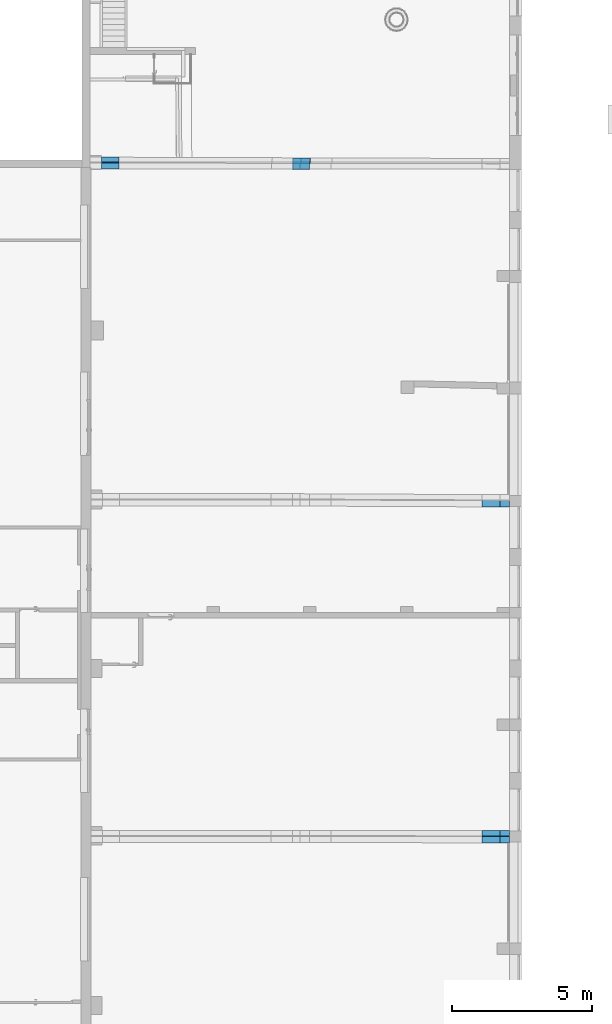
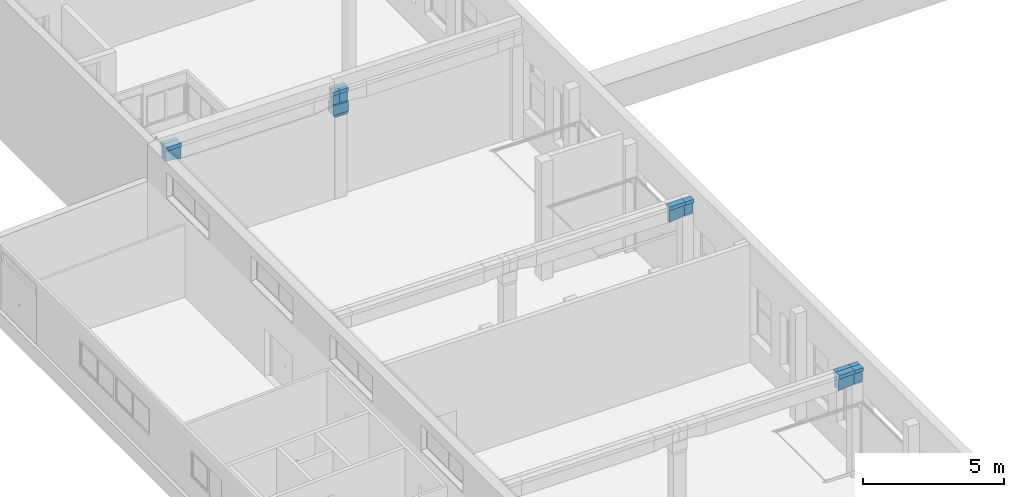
# One storey, part 225 of 301: 14 building element parts, 8 elements without a shape of their own.
"""IFC2X3 building model written with IfcOpenShell, lengths in millimetres."""

from ifc_helpers import new_model, entity, si_unit, converted_unit, derived_unit, money_unit, direction, frame, origin_with_axes, place, context, subcontext, project, spatial, faceted_brep, material, type_object, element, aggregate, save


model = new_model("IFC2X3")

# Units and contexts
model_context = context("Model", 3, precision=0.01, world=origin_with_axes(), true_north=direction((0.0, 1.0)))
body_context = subcontext(model_context, "Body", "Model", "MODEL_VIEW")
ifc_project = project(units=[si_unit("LENGTHUNIT", "METRE", prefix="MILLI"), si_unit("AREAUNIT", "SQUARE_METRE"), si_unit("VOLUMEUNIT", "CUBIC_METRE"), converted_unit("PLANEANGLEUNIT", "DEGREE", entity("IfcPlaneAngleMeasure", 0.0174532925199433), si_unit("PLANEANGLEUNIT", "RADIAN"), dimensions=[0, 0, 0, 0, 0, 0, 0]), money_unit("EUR"), converted_unit("TIMEUNIT", "Year", entity("IfcTimeMeasure", 31557600.0), si_unit("TIMEUNIT", "SECOND"), dimensions=[0, 0, 1, 0, 0, 0, 0]), si_unit("MASSUNIT", "GRAM", prefix="KILO"), si_unit("THERMODYNAMICTEMPERATUREUNIT", "DEGREE_CELSIUS"), si_unit("LUMINOUSINTENSITYUNIT", "LUMEN"), si_unit("ENERGYUNIT", "JOULE", prefix="MEGA"), derived_unit("THERMALCONDUCTANCEUNIT", [(si_unit("POWERUNIT", "WATT"), 1), (si_unit("LENGTHUNIT", "METRE"), -1), (si_unit("THERMODYNAMICTEMPERATUREUNIT", "KELVIN"), -1)]), derived_unit("SPECIFICHEATCAPACITYUNIT", [(si_unit("ENERGYUNIT", "JOULE"), 1), (si_unit("MASSUNIT", "GRAM", prefix="KILO"), -1), (si_unit("THERMODYNAMICTEMPERATUREUNIT", "KELVIN"), -1)]), derived_unit("MASSDENSITYUNIT", [(si_unit("MASSUNIT", "GRAM", prefix="KILO"), 1), (si_unit("VOLUMEUNIT", "CUBIC_METRE"), -1)])], contexts=[model_context])

# Site, building, storey
site_placement = place(None, frame((0.0, 0.0, 8650.0), z_axis=(0.0, 0.0, 1.0), x_axis=(1.0, 0.0, 0.0)))
site = spatial("IfcSite", under=ifc_project, at=site_placement, Name="43301:001:0844", CompositionType="ELEMENT")
building_placement = place(site_placement, origin_with_axes())
building = spatial("IfcBuilding", under=site, at=building_placement, Name="Kuressaare Ametikooli tuulikute mehaanikute õppekorpus", CompositionType="ELEMENT")
storey_placement = place(building_placement, origin_with_axes())
storey = spatial("IfcBuildingStorey", under=building, at=storey_placement, Name="1.korrus", CompositionType="ELEMENT", Elevation=0.0)

# Beam, building element parts
beam_type_1 = type_object("IfcBeamType", Name="Various Structures - 5 Segments - 250 x 700 x 7497 (338+766+5404+640+350)", PredefinedType="NOTDEFINED")
beam_1_placement = place(storey_placement, frame((95730.8310469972, 98334.3303694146, 4300.0), z_axis=(0.0, 0.0, 1.0), x_axis=(-0.004564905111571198, -0.999989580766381, 0.0)))
beam_1 = element("IfcBeam", 1, at=beam_1_placement, inside=storey, type_object=beam_type_1)
ifc_material_1 = material(Name="Raudbetoon")
building_element_part_1_placement = place(beam_1_placement, origin_with_axes())
building_element_part_1 = element("IfcBuildingElementPart", 2, at=building_element_part_1_placement, material=ifc_material_1, Name="Raudbetoon", context=body_context, shape_type="Brep", body=[
    faceted_brep([(64.99999999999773, 7147.120730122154, -164.4012678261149), (64.99999999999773, 7147.120730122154, -629.999999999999), (-64.99999999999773, 7147.12073012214, -629.999999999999), (-64.99999999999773, 7147.12073012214, -164.4012678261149), (-125.0052826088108, 7147.120730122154, -150.0000000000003), (-125.0054185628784, 7147.120730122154, -75.00000000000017), (-125.0055545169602, 7147.12073012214, 0.0), (125.0055545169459, 7147.12073012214, 0.0), (125.0054185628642, 7147.12073012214, -75.00000000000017), (125.0052826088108, 7147.12073012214, -150.0000000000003), (64.99999999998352, 7037.0511995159, -642.0460067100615), (64.99999999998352, 7037.0511995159, -629.999999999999), (64.99999999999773, 6507.500702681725, -164.4011476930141), (64.99999999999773, 6507.500702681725, -700.0000000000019), (-64.99999999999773, 7036.457755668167, -629.999999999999), (-64.99999999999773, 7036.457755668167, -642.1109531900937), (-64.99999999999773, 6507.500702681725, -700.0000000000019), (-64.99999999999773, 6507.500702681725, -164.4011476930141), (-125.0047820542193, 6507.500702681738, -150.0000000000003), (-125.0049071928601, 6667.405709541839, -150.0000000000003), (-125.00515747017, 6987.215723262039, -150.0000000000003), (-125.0054379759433, 6987.215723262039, 0.0), (-125.0052048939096, 6667.405709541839, 0.0), (-125.0050883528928, 6507.500702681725, 0.0), (125.0050883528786, 6507.500702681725, 0.0), (125.0052048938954, 6667.405709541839, 0.0), (125.0054379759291, 6987.215723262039, 0.0), (125.0051574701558, 6987.215723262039, -150.0000000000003), (125.0049071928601, 6667.405709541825, -150.0000000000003), (125.0047820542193, 6507.500702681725, -150.0000000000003), (125.0049352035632, 6507.500702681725, -75.00000000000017), (-125.0049352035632, 6507.500702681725, -75.00000000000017), (-125.0051768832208, 6827.310716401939, -75.00000000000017), (125.0051768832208, 6827.310716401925, -75.00000000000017)], [[[0, 1, 2, 3, 4, 5, 6, 7, 8, 9]], [[10, 11, 1, 0, 12, 13]], [[11, 14, 2, 1]], [[2, 14, 15, 16, 17, 3]], [[4, 3, 17, 18, 19, 20]], [[5, 4, 20]], [[6, 5, 21]], [[7, 6, 21, 22, 23, 24, 25, 26]], [[8, 7, 26]], [[9, 8, 27]], [[0, 9, 27, 28, 29, 12]], [[10, 15, 14, 11]], [[17, 16, 13, 12, 29, 30, 24, 23, 31, 18]], [[16, 15, 10, 13]], [[31, 19, 18]], [[32, 20, 19]], [[5, 20, 32, 21]], [[21, 32, 22]], [[22, 31, 23]], [[30, 25, 24]], [[33, 26, 25]], [[8, 26, 33, 27]], [[27, 33, 28]], [[28, 30, 29]], [[32, 19, 31, 22]], [[33, 25, 30, 28]]]),
])
building_element_part_2_placement = place(beam_1_placement, origin_with_axes())
building_element_part_2 = element("IfcBuildingElementPart", 3, at=building_element_part_2_placement, material=ifc_material_1, Name="Raudbetoon", context=body_context, shape_type="Brep", body=[
    faceted_brep([(125.0055545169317, 7147.120730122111, 0.0), (125.0055545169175, 7497.329914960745, 0.0), (-125.0055545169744, 7496.188626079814, 0.0), (-125.0055545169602, 7147.120730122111, 0.0), (125.0052826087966, 7147.120730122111, -150.0000000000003), (125.0052826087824, 7497.329913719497, -150.0000000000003), (-65.00000000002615, 7496.462548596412, -164.4012678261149), (-125.005282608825, 7496.188627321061, -150.0000000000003), (64.99999999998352, 7497.055992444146, -164.4012678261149), (64.99999999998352, 7497.055992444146, -629.999999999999), (-65.00000000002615, 7496.462548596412, -629.999999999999), (-125.005282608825, 7147.120730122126, -150.0000000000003), (-65.00000000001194, 7147.120730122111, -164.4012678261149), (-65.00000000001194, 7147.120730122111, -629.999999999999), (64.99999999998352, 7147.120730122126, -629.999999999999), (64.99999999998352, 7147.120730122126, -164.4012678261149)], [[[0, 1, 2, 3]], [[4, 5, 1, 0]], [[6, 7, 2, 1, 5, 8, 9, 10]], [[3, 2, 7, 11]], [[12, 13, 14, 15, 4, 0, 3, 11]], [[15, 8, 5, 4]], [[11, 7, 6, 12]], [[14, 9, 8, 15]], [[13, 10, 9, 14]], [[12, 6, 10, 13]]]),
])
aggregate(beam_1, [building_element_part_1, building_element_part_2])

# Column, building element parts
column_type = type_object("IfcColumnType", Name="Various Structures - 3 Segments - 600 x 400 x 4050 (3533+102+415)", PredefinedType="NOTDEFINED")
column_placement = place(storey_placement, frame((95767.69854968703, 110447.6710053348, -330.0), z_axis=(0.0, 0.0, 1.0), x_axis=(1.0, 0.0, 0.0)))
column = element("IfcColumn", 4, at=column_placement, inside=storey, type_object=column_type)
ifc_material_2 = material(Name="GENEERILINE - KONSTRUKTRIOON")
building_element_part_3_placement = place(column_placement, origin_with_axes())
building_element_part_3 = element("IfcBuildingElementPart", 5, at=building_element_part_3_placement, material=ifc_material_2, Name="GENEERILINE - KONSTRUKTRIOON", context=body_context, shape_type="Brep", body=[
    faceted_brep([(299.9999999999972, -200.0000000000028, 3635.0), (-299.9999999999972, -200.0000000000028, 3635.0), (-250.0, -200.0000000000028, 3532.979557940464), (250.0, -200.0000000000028, 3532.979557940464), (299.9999999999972, 200.0000000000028, 3635.0), (-299.9999999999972, 200.0000000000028, 3635.0), (-250.0, 200.0000000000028, 3532.979557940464), (250.0, 200.0000000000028, 3532.979557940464)], [[[0, 1, 2, 3]], [[4, 5, 1, 0]], [[1, 5, 6, 2]], [[7, 3, 2, 6]], [[4, 0, 3, 7]], [[5, 4, 7, 6]]]),
])
building_element_part_4_placement = place(column_placement, origin_with_axes())
building_element_part_4 = element("IfcBuildingElementPart", 6, at=building_element_part_4_placement, material=ifc_material_2, Name="GENEERILINE - KONSTRUKTRIOON", context=body_context, shape_type="Brep", body=[
    faceted_brep([(-299.9999999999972, -200.0000000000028, 4050.0), (-299.9999999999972, -200.0000000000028, 3635.0), (299.9999999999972, -200.0000000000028, 3635.0), (299.9999999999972, -200.0000000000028, 4050.0), (-299.9999999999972, 200.0000000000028, 4050.0), (-299.9999999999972, 200.0000000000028, 3635.0), (299.9999999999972, 200.0000000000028, 3635.0), (299.9999999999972, 200.0000000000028, 4050.0)], [[[0, 1, 2, 3]], [[4, 5, 1, 0]], [[2, 1, 5, 6]], [[3, 2, 6, 7]], [[4, 0, 3, 7]], [[7, 6, 5, 4]]]),
])
aggregate(column, [building_element_part_3, building_element_part_4])

# Beam, building element part
beam_type_2 = type_object("IfcBeamType", Name="Various Structures - 5 Segments - 250 x 700 x 7459 (337+766+5365+640+352)", PredefinedType="NOTDEFINED")
beam_2_placement = place(storey_placement, frame((95767.67580270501, 110534.9704800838, 4300.0), z_axis=(0.0, 0.0, 1.0), x_axis=(-0.003367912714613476, -0.9999943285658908, 0.0)))
beam_2 = element("IfcBeam", 7, at=beam_2_placement, inside=storey, type_object=beam_type_2)
building_element_part_5_placement = place(beam_2_placement, origin_with_axes())
building_element_part_5 = element("IfcBuildingElementPart", 8, at=building_element_part_5_placement, material=ifc_material_1, Name="Raudbetoon", context=body_context, shape_type="Brep", body=[
    faceted_brep([(-125.0055545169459, 337.7568168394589, 0.0), (-125.005282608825, 337.7568168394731, -150.0000000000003), (-125.0052826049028, 0.4617182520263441, -150.0000000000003), (-125.005554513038, 0.4617182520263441, 0.0), (21.75254840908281, 337.7568168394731, 0.0), (21.75267156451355, 337.7568168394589, -63.4067536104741), (21.7527181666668, 337.7568168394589, -86.59324633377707), (21.75284132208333, 337.7568168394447, -150.0000000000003), (73.37918230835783, 337.7568168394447, -162.3902640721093), (64.99999999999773, 337.7568168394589, -164.4012678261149), (64.99999999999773, 337.7568168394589, -579.8231697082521), (-65.00000000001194, 337.7568168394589, -579.8231697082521), (-65.00000000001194, 337.7568168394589, -164.4012678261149), (-64.99999999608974, 0.4617177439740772, -164.4012678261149), (73.89411917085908, 0.4617165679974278, -162.2666792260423), (22.78271733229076, 0.4617170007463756, -150.0000000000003), (22.78244542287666, 0.4617170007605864, 0.0), (-64.99999999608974, 0.4617177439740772, -579.8231697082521), (65.00000000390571, 0.4617166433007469, -579.8231697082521), (65.0000000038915, 0.4617166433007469, -164.4012678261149), (21.8429310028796, 308.1582167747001, 0.0), (21.84307667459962, 308.1582172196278, -75.00000000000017), (21.84322234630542, 308.1582176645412, -150.0000000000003)], [[[0, 1, 2, 3]], [[4, 5, 6, 7, 8, 9, 10, 11, 12, 1, 0]], [[1, 12, 13, 2]], [[14, 15, 16, 3, 2, 13, 17, 18, 19]], [[4, 0, 3, 16, 20]], [[4, 20, 21, 5]], [[6, 5, 21]], [[6, 21, 22, 7]], [[7, 22, 15, 14, 8]], [[9, 8, 14, 19]], [[10, 9, 19, 18]], [[11, 10, 18, 17]], [[12, 11, 17, 13]], [[21, 20, 16, 15, 22]]]),
])
aggregate(beam_2, [building_element_part_5])

# Beam, building element parts
beam_type_3 = type_object("IfcBeamType", Name="Various Structures - 5 Segments - 250 x 700 x 7549 (262+767+5479+621+420)", PredefinedType="NOTDEFINED")
beam_3_placement = place(storey_placement, frame((95768.13751728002, 110534.9689250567, 4300.0), z_axis=(0.0, 0.0, 1.0), x_axis=(0.003367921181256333, 0.9999943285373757, 0.0)))
beam_3 = element("IfcBeam", 9, at=beam_3_placement, inside=storey, type_object=beam_type_3)
building_element_part_6_placement = place(beam_3_placement, origin_with_axes())
building_element_part_6 = element("IfcBuildingElementPart", 10, at=building_element_part_6_placement, material=ifc_material_1, Name="Raudbetoon", context=body_context, shape_type="Brep", body=[
    faceted_brep([(125.0055545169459, 261.7777961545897, 0.0), (-23.65466279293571, 261.7777961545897, 0.0), (-22.87437891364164, 30.09795213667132, 0.0), (-125.0055326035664, 29.74680576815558, 0.0), (-22.87425300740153, 30.05874251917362, 0.0), (-22.78244541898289, 0.0, 0.0), (125.0055545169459, 0.0, 0.0), (64.99999999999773, 261.7777961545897, -579.8231697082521), (-65.00000000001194, 261.7777961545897, -579.8231697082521), (-65.00000000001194, 261.7777961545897, -164.4012678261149), (-74.33025235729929, 261.7777961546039, -162.1620072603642), (-23.6549347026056, 261.7777961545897, -150.0000000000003), (125.0052826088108, 261.7777961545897, -150.0000000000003), (64.99999999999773, 261.7777961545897, -164.4012678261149), (-22.87465082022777, 30.09795122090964, -150.0000000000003), (-73.93982190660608, 29.92596677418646, -162.2557105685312), (-125.0052606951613, 29.74680659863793, -150.0000000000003), (-73.93978467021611, 29.90277447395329, -162.2557195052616), (-22.87452491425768, 30.05874168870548, -150.0000000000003), (-22.78271732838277, 0.0, -150.0000000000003), (125.0052826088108, 0.0, -150.0000000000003), (-73.8941191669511, 0.0, -162.2666792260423), (-64.99999999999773, 0.0, -164.4012678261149), (-65.00000000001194, 0.0, -579.8231697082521), (64.99999999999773, 0.0, -579.8231697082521), (64.99999999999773, 0.0, -164.4012678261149)], [[[0, 1, 2, 3, 4, 5, 6]], [[7, 8, 9, 10, 11, 1, 0, 12, 13]], [[2, 1, 11, 14]], [[2, 14, 15, 16, 3]], [[16, 17, 18, 4, 3]], [[5, 4, 18, 19]], [[20, 6, 5, 19, 21, 22, 23, 24, 25]], [[20, 12, 0, 6]], [[23, 8, 7, 24]], [[22, 9, 8, 23]], [[9, 22, 21, 17, 16, 15, 10]], [[10, 15, 14, 11]], [[25, 13, 12, 20]], [[24, 7, 13, 25]], [[19, 18, 17, 21]]]),
])
building_element_part_7_placement = place(beam_3_placement, origin_with_axes())
building_element_part_7 = element("IfcBuildingElementPart", 11, at=building_element_part_7_placement, material=ifc_material_1, Name="Raudbetoon", context=body_context, shape_type="Brep", body=[
    faceted_brep([(64.99999999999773, 7129.433449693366, -630.0252041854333), (0.4397983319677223, 7129.43344969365, -630.0252041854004), (65.00002122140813, 7129.650884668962, -629.999999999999), (-65.00000000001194, 7128.634480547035, -630.0252520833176), (-64.99999999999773, 7129.213052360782, -630.025217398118), (64.99999999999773, 7128.634481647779, -630.0252520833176), (-64.99999999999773, 7129.213052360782, -629.999999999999), (64.99999999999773, 6508.271561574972, -164.4011476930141), (64.99999999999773, 6508.271561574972, -699.959733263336), (65.00000000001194, 7129.657185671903, -164.4012678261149), (-64.99999999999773, 7129.657185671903, -629.999999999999), (-65.00000000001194, 6508.271561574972, -699.9597331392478), (-64.99999999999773, 6508.271561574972, -164.4011476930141), (-64.99999999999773, 7129.657185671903, -164.4012678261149), (-84.84913139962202, 6508.271561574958, -159.6373561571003), (125.0047820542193, 6508.271561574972, -150.0000000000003), (125.0049352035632, 6508.271561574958, -75.00000000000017), (125.0050883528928, 6508.271561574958, 0.0), (-44.69294681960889, 6508.271561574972, 0.0), (-44.69309981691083, 6508.271561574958, -74.92511811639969), (-44.69310011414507, 6508.271561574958, -75.07488188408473), (-44.69325311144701, 6508.271561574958, -150.0000000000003), (-85.89552338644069, 7129.657185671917, -159.386342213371), (-46.78554235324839, 7129.657185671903, -150.0000000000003), (-46.7852704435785, 7129.657185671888, 0.0), (125.0055545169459, 7129.657185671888, 0.0), (125.0054185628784, 7129.657185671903, -75.00000000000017), (125.005282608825, 7129.657185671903, -150.0000000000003), (125.0049071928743, 6663.617967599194, -150.0000000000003), (125.0051574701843, 6974.310779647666, -150.0000000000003), (125.0052048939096, 6663.617967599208, 0.0), (125.0054379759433, 6974.310779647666, 0.0), (-46.78473621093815, 7129.498562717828, 0.0), (-46.26165830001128, 6974.153037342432, 0.0), (-45.21550247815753, 6663.461986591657, 0.0), (-45.73872493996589, 6818.807511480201, -75.00000000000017), (-45.21580017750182, 6663.461985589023, -150.0000000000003), (-46.26193880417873, 6974.153036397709, -150.0000000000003), (-46.78500811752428, 7129.498561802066, -150.0000000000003), (-46.78487216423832, 7129.498562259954, -75.00000000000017), (125.0051768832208, 6818.964373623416, -75.00000000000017)], [[[0, 1, 2]], [[3, 4, 1, 0, 5]], [[6, 2, 1, 4]], [[7, 8, 5, 0, 2, 9]], [[10, 6, 4, 3, 11, 12, 13]], [[11, 3, 5, 8]], [[6, 10, 2]], [[14, 12, 11, 8, 7, 15, 16, 17, 18, 19, 20, 21]], [[9, 2, 10, 13, 22, 23, 24, 25, 26, 27]], [[28, 15, 7, 9, 27, 29]], [[13, 12, 14, 22]], [[28, 16, 15]], [[16, 30, 17]], [[30, 31, 25, 24, 32, 33, 34, 18, 17]], [[34, 19, 18]], [[19, 34, 35, 36, 20]], [[36, 21, 20]], [[21, 36, 37, 38, 23, 22, 14]], [[24, 23, 38, 39, 32]], [[26, 25, 31]], [[27, 26, 29]], [[29, 40, 28]], [[30, 16, 28, 40]], [[40, 31, 30]], [[32, 39, 33]], [[35, 34, 33]], [[37, 36, 35]], [[39, 38, 37]], [[31, 40, 29, 26]], [[35, 33, 39, 37]]]),
])
aggregate(beam_3, [building_element_part_6, building_element_part_7])

# Beam, building element part
beam_type_4 = type_object("IfcBeamType", Name="Various Structures - 5 Segments - 250 x 700 x 7489 (338+766+5394+640+352)", PredefinedType="NOTDEFINED")
beam_4_placement = place(storey_placement, frame((95737.96269673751, 110387.1904888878, 4300.0), z_axis=(0.0, 0.0, 1.0), x_axis=(-0.0003136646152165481, -0.9999999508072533, 0.0)))
beam_4 = element("IfcBeam", 12, at=beam_4_placement, inside=storey, type_object=beam_type_4)
building_element_part_8_placement = place(beam_4_placement, origin_with_axes())
building_element_part_8 = element("IfcBuildingElementPart", 13, at=building_element_part_8_placement, material=ifc_material_1, Name="Raudbetoon", context=body_context, shape_type="Brep", body=[
    faceted_brep([(64.99999999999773, 0.0, -164.4012678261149), (64.99999999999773, 0.0, -579.8231697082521), (65.00000000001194, 337.7568168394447, -579.8231697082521), (65.00000000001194, 337.7568168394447, -164.4012678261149), (-64.99999999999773, 0.0, -164.4012678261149), (-64.99999999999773, 0.0, -579.8231697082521), (125.0052826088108, 0.0, -150.0000000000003), (125.0055545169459, 0.0, 0.0), (-125.0055545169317, 0.0, 0.0), (-125.0052826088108, 0.0, -150.0000000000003), (-64.99999999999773, 337.7568168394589, -579.8231697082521), (125.0052826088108, 337.7568168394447, -150.0000000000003), (-64.99999999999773, 337.7568168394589, -164.4012678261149), (-125.0052826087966, 337.7568168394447, -150.0000000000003), (-125.0055545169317, 337.7568168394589, 0.0), (125.0055545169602, 337.7568168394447, 0.0)], [[[0, 1, 2, 3]], [[4, 5, 1, 0, 6, 7, 8, 9]], [[1, 5, 10, 2]], [[11, 3, 2, 10, 12, 13, 14, 15]], [[6, 0, 3, 11]], [[5, 4, 12, 10]], [[7, 6, 11, 15]], [[8, 7, 15, 14]], [[9, 8, 14, 13]], [[4, 9, 13, 12]]]),
])
aggregate(beam_4, [building_element_part_8])

# Beam, building element parts
beam_type_5 = type_object("IfcBeamType", Name="Various Structures - 5 Segments - 250 x 700 x 7519 (262+767+5449+621+420)", PredefinedType="NOTDEFINED")
beam_5_placement = place(storey_placement, frame((95737.96269673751, 110387.1904888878, 4300.0), z_axis=(0.0, 0.0, 1.0), x_axis=(0.0, 1.0, 0.0)))
beam_5 = element("IfcBeam", 14, at=beam_5_placement, inside=storey, type_object=beam_type_5)
building_element_part_9_placement = place(beam_5_placement, origin_with_axes())
building_element_part_9 = element("IfcBuildingElementPart", 15, at=building_element_part_9_placement, material=ifc_material_1, Name="Raudbetoon", context=body_context, shape_type="Brep", body=[
    faceted_brep([(64.99999999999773, 0.0, -164.4012678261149), (64.99999999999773, 0.0, -579.8231697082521), (64.99999999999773, 261.7777961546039, -579.8231697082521), (64.99999999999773, 261.7777961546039, -164.4012678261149), (-64.99999999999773, 0.0, -164.4012678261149), (-64.99999999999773, 0.0, -579.8231697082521), (125.0052826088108, 0.0, -150.0000000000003), (125.0055545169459, 0.0, 0.0), (-125.0055545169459, 0.0, 0.0), (-125.0052826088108, 0.0, -150.0000000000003), (-64.99999999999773, 261.7777961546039, -579.8231697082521), (125.0052826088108, 261.7777961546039, -150.0000000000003), (-64.99999999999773, 261.7777961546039, -164.4012678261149), (-125.0052826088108, 261.7777961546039, -150.0000000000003), (-125.0055545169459, 261.7777961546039, 0.0), (125.0055545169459, 261.7777961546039, 0.0)], [[[0, 1, 2, 3]], [[4, 5, 1, 0, 6, 7, 8, 9]], [[1, 5, 10, 2]], [[11, 3, 2, 10, 12, 13, 14, 15]], [[6, 0, 3, 11]], [[5, 4, 12, 10]], [[7, 6, 11, 15]], [[8, 7, 15, 14]], [[9, 8, 14, 13]], [[4, 9, 13, 12]]]),
])
building_element_part_10_placement = place(beam_5_placement, origin_with_axes())
building_element_part_10 = element("IfcBuildingElementPart", 16, at=building_element_part_10_placement, material=ifc_material_1, Name="Raudbetoon", context=body_context, shape_type="Brep", body=[
    faceted_brep([(64.99999999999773, 7099.216713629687, -630.025225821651), (64.99999999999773, 7099.216713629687, -629.999999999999), (64.99999999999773, 7099.440874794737, -629.999999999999), (64.99999999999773, 7099.440874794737, -164.4012678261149), (64.99999999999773, 6478.055250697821, -164.4011476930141), (64.99999999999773, 6478.055250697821, -700.000000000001), (64.99999999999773, 7098.778882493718, -630.0252520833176), (-64.99999999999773, 7099.216713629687, -629.999999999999), (-64.99999999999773, 7099.216713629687, -630.0252520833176), (-64.99999999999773, 7099.440874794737, -629.999999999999), (-64.99999999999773, 7099.440874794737, -164.4012678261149), (-125.0052826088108, 7099.440874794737, -150.0000000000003), (-125.0054185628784, 7099.440874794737, -75.00000000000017), (-125.0055545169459, 7099.440874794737, 0.0), (125.0055545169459, 7099.440874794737, 0.0), (125.0054185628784, 7099.440874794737, -75.00000000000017), (125.0052826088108, 7099.440874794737, -150.0000000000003), (125.0047820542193, 6478.055250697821, -150.0000000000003), (125.00515747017, 6944.094468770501, -150.0000000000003), (125.0049071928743, 6633.401656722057, -150.0000000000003), (125.0049352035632, 6478.055250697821, -75.00000000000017), (125.0050883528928, 6478.055250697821, 0.0), (-125.0050883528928, 6478.055250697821, 0.0), (-125.0049352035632, 6478.055250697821, -75.00000000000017), (-125.0047820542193, 6478.055250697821, -150.0000000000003), (-64.99999999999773, 6478.055250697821, -164.4011476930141), (-64.99999999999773, 6478.055250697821, -700.000000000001), (-125.0049071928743, 6633.401656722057, -150.0000000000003), (-125.00515747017, 6944.094468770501, -150.0000000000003), (-125.0054379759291, 6944.094468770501, 0.0), (125.0052048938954, 6633.401656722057, 0.0), (125.0054379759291, 6944.094468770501, 0.0), (-125.0052048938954, 6633.401656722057, 0.0), (125.0051768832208, 6788.748062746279, -75.00000000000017), (-125.0051768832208, 6788.748062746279, -75.00000000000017)], [[[0, 1, 2, 3, 4, 5, 6]], [[7, 1, 0, 8]], [[9, 2, 1, 7]], [[3, 2, 9, 10, 11, 12, 13, 14, 15, 16]], [[17, 4, 3, 16, 18, 19]], [[20, 21, 22, 23, 24, 25, 26, 5, 4, 17]], [[8, 6, 5]], [[6, 8, 0]], [[9, 7, 8, 26, 25, 10]], [[27, 28, 11, 10, 25, 24]], [[11, 28, 12]], [[12, 29, 13]], [[30, 31, 14, 13, 29, 32, 22, 21]], [[14, 31, 15]], [[15, 18, 16]], [[18, 33, 19]], [[17, 19, 20]], [[20, 30, 21]], [[22, 32, 23]], [[23, 27, 24]], [[5, 26, 8]], [[28, 27, 34]], [[34, 29, 12, 28]], [[30, 33, 31]], [[29, 34, 32]], [[31, 33, 18, 15]], [[30, 20, 19, 33]], [[27, 23, 32, 34]]]),
])
aggregate(beam_5, [building_element_part_9, building_element_part_10])

beam_type_6 = type_object("IfcBeamType", Name="Various Structures - 5 Segments - 250 x 700 x 7496 (338+766+5404+640+349)", PredefinedType="NOTDEFINED")
beam_6_placement = place(storey_placement, frame((95731.40168846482, 86476.84788949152, 4300.0), z_axis=(0.0, 0.0, 1.0), x_axis=(0.001815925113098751, -0.9999983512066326, 0.0)))
beam_6 = element("IfcBeam", 17, at=beam_6_placement, inside=storey, type_object=beam_type_6)
building_element_part_11_placement = place(beam_6_placement, origin_with_axes())
building_element_part_11 = element("IfcBuildingElementPart", 18, at=building_element_part_11_placement, material=ifc_material_1, Name="Raudbetoon", context=body_context, shape_type="Brep", body=[
    faceted_brep([(64.99999999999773, 6507.591200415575, -700.0000000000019), (64.99999999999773, 7036.00408432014, -642.1705070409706), (64.99999999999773, 7036.00408432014, -629.999999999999), (65.00000000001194, 7147.211227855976, -629.999999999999), (65.00000000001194, 7147.211227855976, -164.4012678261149), (64.99999999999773, 6507.591200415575, -164.4011476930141), (-64.99999999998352, 6507.591200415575, -700.0000000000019), (-64.99999999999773, 7036.240154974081, -642.1446714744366), (-64.99999999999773, 7036.240154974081, -629.999999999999), (-64.99999999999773, 7147.211227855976, -629.999999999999), (-64.99999999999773, 7147.211227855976, -164.4012678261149), (-125.0052826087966, 7147.211227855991, -150.0000000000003), (-125.0054185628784, 7147.211227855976, -75.00000000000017), (-125.0055545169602, 7147.211227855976, 0.0), (73.0864922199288, 7147.211227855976, 0.0), (73.08676412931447, 7147.211227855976, -150.0000000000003), (99.04608318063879, 7147.211227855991, -156.2302078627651), (98.0751963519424, 6507.591200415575, -156.4631005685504), (71.14548661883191, 6507.59120041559, -150.0000000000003), (71.14533403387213, 6507.59120041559, -75.27672696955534), (71.14533293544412, 6507.59120041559, -74.7232730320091), (71.14518035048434, 6507.591200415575, 0.0), (-125.0050883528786, 6507.59120041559, 0.0), (-125.0049352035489, 6507.59120041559, -75.00000000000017), (-125.0047820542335, 6507.59120041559, -150.0000000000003), (-64.99999999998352, 6507.591200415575, -164.4011476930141), (-125.0049071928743, 6667.49620727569, -150.0000000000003), (-125.0051574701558, 6987.306220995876, -150.0000000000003), (-125.0054379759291, 6987.30622099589, 0.0), (71.62871527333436, 6666.905473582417, 0.0), (72.59936652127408, 6986.714014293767, 0.0), (73.08469214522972, 7146.618284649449, 0.0), (-125.0052048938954, 6667.496207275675, 0.0), (73.084828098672, 7146.618284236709, -75.00000000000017), (73.08496405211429, 7146.618283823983, -150.0000000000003), (72.59964702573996, 6986.714013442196, -150.0000000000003), (71.6290129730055, 6666.905472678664, -150.0000000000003), (72.11418544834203, 6826.809743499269, -75.00000000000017), (-125.0051768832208, 6827.40121413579, -75.00000000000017)], [[[0, 1, 2, 3, 4, 5]], [[6, 7, 1, 0]], [[1, 7, 8, 2]], [[8, 9, 3, 2]], [[4, 3, 9, 10, 11, 12, 13, 14, 15, 16]], [[4, 16, 17, 5]], [[18, 19, 20, 21, 22, 23, 24, 25, 6, 0, 5, 17]], [[9, 8, 7, 6, 25, 10]], [[26, 27, 11, 10, 25, 24]], [[11, 27, 12]], [[12, 28, 13]], [[22, 21, 29, 30, 31, 14, 13, 28, 32]], [[14, 31, 33, 34, 15]], [[16, 15, 34, 35, 36, 18, 17]], [[18, 36, 19]], [[37, 29, 20, 19, 36]], [[21, 20, 29]], [[23, 22, 32]], [[26, 24, 23]], [[27, 26, 38]], [[38, 28, 12, 27]], [[29, 37, 30]], [[31, 30, 33]], [[38, 32, 28]], [[33, 35, 34]], [[35, 37, 36]], [[23, 32, 38, 26]], [[33, 30, 37, 35]]]),
])
building_element_part_12_placement = place(beam_6_placement, origin_with_axes())
building_element_part_12 = element("IfcBuildingElementPart", 19, at=building_element_part_12_placement, material=ifc_material_1, Name="Raudbetoon", context=body_context, shape_type="Brep", body=[
    faceted_brep([(73.0864922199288, 7147.211227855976, 0.0), (74.14531988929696, 7495.98823555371, 0.0), (-125.0055545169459, 7496.349879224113, 0.0), (-125.0055545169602, 7147.211227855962, 0.0), (73.08676412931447, 7147.211227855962, -150.0000000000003), (74.14559179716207, 7495.98823505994, -150.0000000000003), (-64.99999999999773, 7496.240913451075, -164.4012678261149), (-125.0052826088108, 7496.349878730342, -150.0000000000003), (99.57542569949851, 7495.942056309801, -156.1031656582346), (64.99999999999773, 7496.004842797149, -164.4012678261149), (64.99999999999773, 7496.004842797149, -629.999999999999), (-64.99999999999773, 7496.240913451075, -629.999999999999), (-125.0052826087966, 7147.211227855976, -150.0000000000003), (64.99999999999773, 7147.211227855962, -164.4012678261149), (99.04608318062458, 7147.211227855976, -156.2302078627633), (-64.99999999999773, 7147.211227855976, -164.4012678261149), (-64.99999999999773, 7147.211227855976, -629.999999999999), (64.99999999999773, 7147.211227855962, -629.999999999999)], [[[0, 1, 2, 3]], [[4, 5, 1, 0]], [[6, 7, 2, 1, 5, 8, 9, 10, 11]], [[3, 2, 7, 12]], [[13, 14, 4, 0, 3, 12, 15, 16, 17]], [[14, 8, 5, 4]], [[12, 7, 6, 15]], [[13, 9, 8, 14]], [[17, 10, 9, 13]], [[16, 11, 10, 17]], [[15, 6, 11, 16]]]),
])
aggregate(beam_6, [building_element_part_11, building_element_part_12])

beam_7_placement = place(storey_placement, frame((95730.8310469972, 86300.45436199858, 4300.0), z_axis=(0.0, 0.0, 1.0), x_axis=(-0.001219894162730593, -0.9999992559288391, 0.0)))
beam_7 = element("IfcBeam", 20, at=beam_7_placement, inside=storey, type_object=beam_type_1)
building_element_part_13_placement = place(beam_7_placement, origin_with_axes())
building_element_part_13 = element("IfcBuildingElementPart", 21, at=building_element_part_13_placement, material=ifc_material_1, Name="Raudbetoon", context=body_context, shape_type="Brep", body=[
    faceted_brep([(65.00000000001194, 7147.162683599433, -164.4012678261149), (65.00000000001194, 7147.162683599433, -629.999999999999), (-64.99999999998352, 7147.162683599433, -629.999999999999), (-64.99999999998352, 7147.162683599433, -164.4012678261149), (-125.0052826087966, 7147.162683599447, -150.0000000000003), (-125.0054185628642, 7147.162683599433, -75.00000000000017), (-125.0055545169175, 7147.162683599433, 0.0), (125.0055545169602, 7147.162683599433, 0.0), (125.0054185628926, 7147.162683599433, -75.00000000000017), (125.005282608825, 7147.162683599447, -150.0000000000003), (65.00000000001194, 7036.765688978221, -642.0818443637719), (65.00000000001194, 7036.765688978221, -629.999999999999), (65.00000000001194, 6507.542656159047, -164.4011476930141), (65.00000000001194, 6507.542656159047, -700.0000000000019), (-64.99999999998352, 7036.607102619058, -629.999999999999), (-64.99999999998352, 7036.607102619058, -642.0992000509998), (-64.99999999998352, 6507.54265615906, -700.0000000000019), (-64.99999999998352, 6507.54265615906, -164.4011476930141), (-125.0047820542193, 6507.542656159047, -150.0000000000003), (-125.0049071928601, 6667.447663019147, -150.0000000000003), (-125.0051574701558, 6987.257676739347, -150.0000000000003), (-125.0054379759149, 6987.257676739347, 0.0), (-125.0052048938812, 6667.447663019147, 0.0), (-125.0050883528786, 6507.542656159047, 0.0), (125.005088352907, 6507.542656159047, 0.0), (125.0052048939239, 6667.447663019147, 0.0), (125.0054379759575, 6987.257676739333, 0.0), (125.0051574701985, 6987.257676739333, -150.0000000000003), (125.0049071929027, 6667.447663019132, -150.0000000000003), (125.0047820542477, 6507.542656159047, -150.0000000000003), (125.0049352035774, 6507.54265615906, -75.00000000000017), (-125.0049352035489, 6507.542656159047, -75.00000000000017), (-125.0051768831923, 6827.352669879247, -75.00000000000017), (125.005176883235, 6827.352669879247, -75.00000000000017)], [[[0, 1, 2, 3, 4, 5, 6, 7, 8, 9]], [[10, 11, 1, 0, 12, 13]], [[11, 14, 2, 1]], [[2, 14, 15, 16, 17, 3]], [[4, 3, 17, 18, 19, 20]], [[5, 4, 20]], [[6, 5, 21]], [[7, 6, 21, 22, 23, 24, 25, 26]], [[8, 7, 26]], [[9, 8, 27]], [[0, 9, 27, 28, 29, 12]], [[10, 15, 14, 11]], [[17, 16, 13, 12, 29, 30, 24, 23, 31, 18]], [[16, 15, 10, 13]], [[31, 19, 18]], [[32, 20, 19]], [[5, 20, 32, 21]], [[21, 32, 22]], [[22, 31, 23]], [[30, 25, 24]], [[33, 26, 25]], [[8, 26, 33, 27]], [[27, 33, 28]], [[28, 30, 29]], [[32, 19, 31, 22]], [[33, 25, 30, 28]]]),
])
building_element_part_14_placement = place(beam_7_placement, origin_with_axes())
building_element_part_14 = element("IfcBuildingElementPart", 22, at=building_element_part_14_placement, material=ifc_material_1, Name="Raudbetoon", context=body_context, shape_type="Brep", body=[
    faceted_brep([(125.0055545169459, 7147.162683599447, 0.0), (125.0055545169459, 7496.839231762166, 0.0), (-125.0055545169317, 7496.534244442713, 0.0), (-125.0055545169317, 7147.162683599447, 0.0), (125.0052826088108, 7147.162683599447, -150.0000000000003), (125.005282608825, 7496.839231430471, -150.0000000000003), (-64.99999999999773, 7496.607444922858, -164.4012678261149), (-125.0052826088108, 7496.53424477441, -150.0000000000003), (65.00000000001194, 7496.766031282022, -164.4012678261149), (65.00000000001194, 7496.766031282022, -629.999999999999), (-64.99999999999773, 7496.607444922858, -629.999999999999), (-125.0052826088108, 7147.162683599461, -150.0000000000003), (-64.99999999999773, 7147.162683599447, -164.4012678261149), (-64.99999999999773, 7147.162683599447, -629.999999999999), (64.99999999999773, 7147.162683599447, -629.999999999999), (64.99999999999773, 7147.162683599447, -164.4012678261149)], [[[0, 1, 2, 3]], [[4, 5, 1, 0]], [[6, 7, 2, 1, 5, 8, 9, 10]], [[3, 2, 7, 11]], [[12, 13, 14, 15, 4, 0, 3, 11]], [[15, 8, 5, 4]], [[11, 7, 6, 12]], [[14, 9, 8, 15]], [[13, 10, 9, 14]], [[12, 6, 10, 13]]]),
])
aggregate(beam_7, [building_element_part_13, building_element_part_14])

save(model, "model.ifc")
